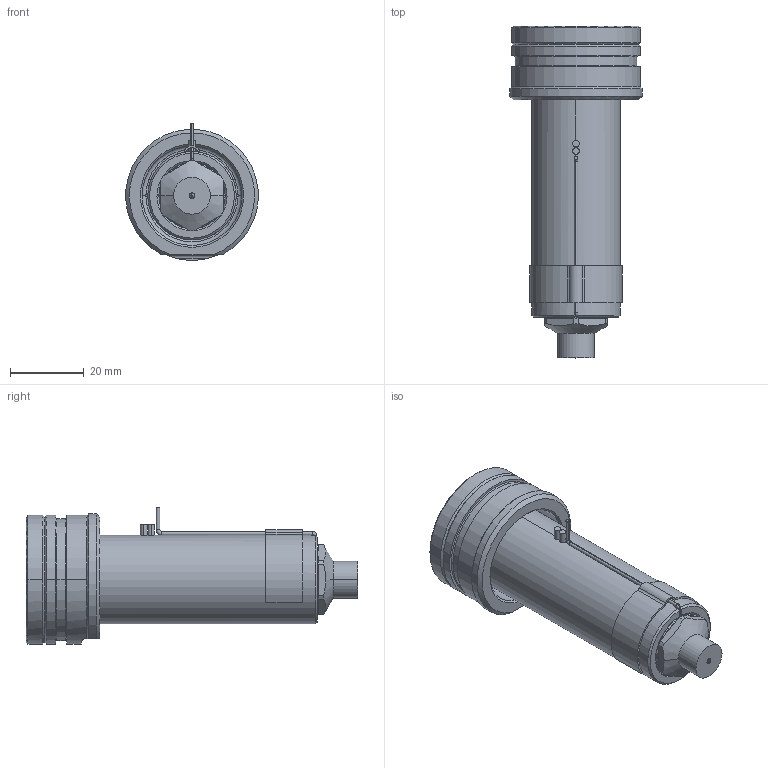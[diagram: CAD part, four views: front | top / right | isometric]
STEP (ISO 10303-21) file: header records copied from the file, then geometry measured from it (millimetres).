
FILE_DESCRIPTION((''),'2;1');
FILE_NAME('EO06_PG-FB_STD_070_SW','2024-02-19T11:24:52',('sundharh'),(''),'CREO PARAMETRIC BY PTC INC, 2023154','CREO PARAMETRIC BY PTC INC, 2023154','');
FILE_SCHEMA(('CONFIG_CONTROL_DESIGN'));
Length unit declared in the file: millimetre
Products named in the file (1): EO06_PG-FB_STD_070_SW
Bounding box: 35.93 x 90 x 37 mm (x, y, z)
Volume: 43362.9 mm3; surface area: 14258.9 mm2
Topology: 2 solids, 2 shells, 210 faces, 564 edges, 346 vertices
Faces by surface type: cylinder 85, plane 55, cone 40, torus 21, bspline 6, sphere 3
Entity records: 7517 total; most frequent: CARTESIAN_POINT 2171, DIRECTION 1179, ORIENTED_EDGE 1112, EDGE_CURVE 556, AXIS2_PLACEMENT_3D 496, VERTEX_POINT 346, CIRCLE 292, EDGE_LOOP 226
